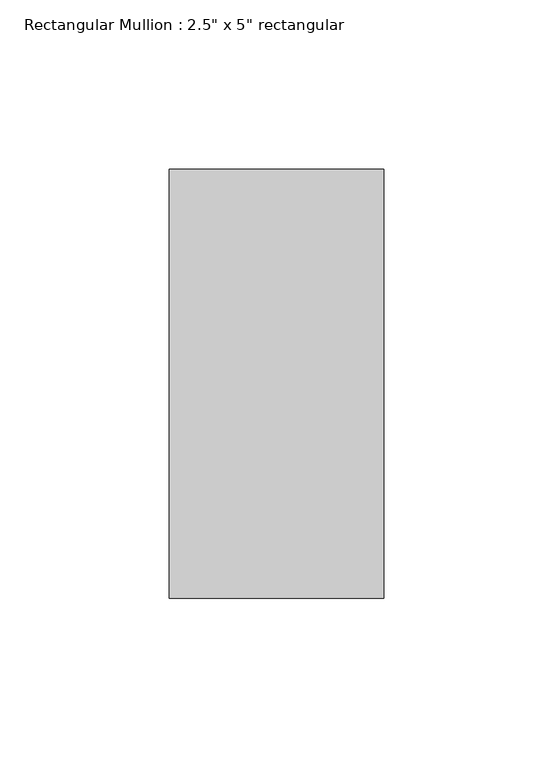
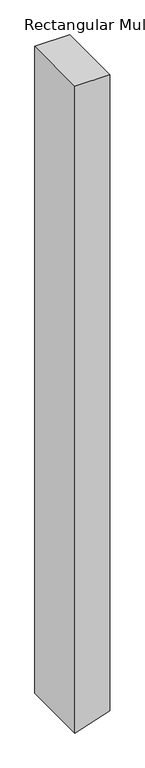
"""IFC4 building model written with IfcOpenShell, lengths in millimetres: member geometry."""

from ifc_helpers import new_model, si_unit, frame, origin, place, context, project, spatial, polyline, outline, extrude, source, transform, mapped, element, save


def member_85cc6aa7(model_context):
    return source(origin(), model_context, "Body", "SweptSolid", [
        extrude(outline(polyline([(0.0, 0.0), (0.0, -63.5), (-1252.768406, -63.5), (-1231.6017394, 0.0), (0.0, 0.0)])), frame((0.0, -63.5, 0.0), z_axis=(0.0, 1.0, 0.0), x_axis=(0.0, 0.0, 1.0)), (0.0, 0.0, 1.0), 127.0),
    ])


if __name__ == "__main__":
    model = new_model("IFC4")
    model_context = context("Model", 3, world=origin())
    ifc_project = project(units=[si_unit("LENGTHUNIT", "METRE", prefix="MILLI")], contexts=[model_context])
    site = spatial("IfcSite", under=ifc_project)
    building = spatial("IfcBuilding", under=site)
    placement = place(None, origin())
    member_shape = member_85cc6aa7(model_context)
    element("IfcMember", 1, ObjectType="Rectangular Mullion : 2.5\" x 5\" rectangular", at=placement, inside=building, context=model_context, shape_type="MappedRepresentation", body=[
        mapped(member_shape, transform((0.0, 0.0, 0.0), x_axis=(1.0, 0.0, 0.0), y_axis=(0.0, 1.0, 0.0), z_axis=(0.0, 0.0, 1.0))),
    ])
    save(model, "model.ifc")
